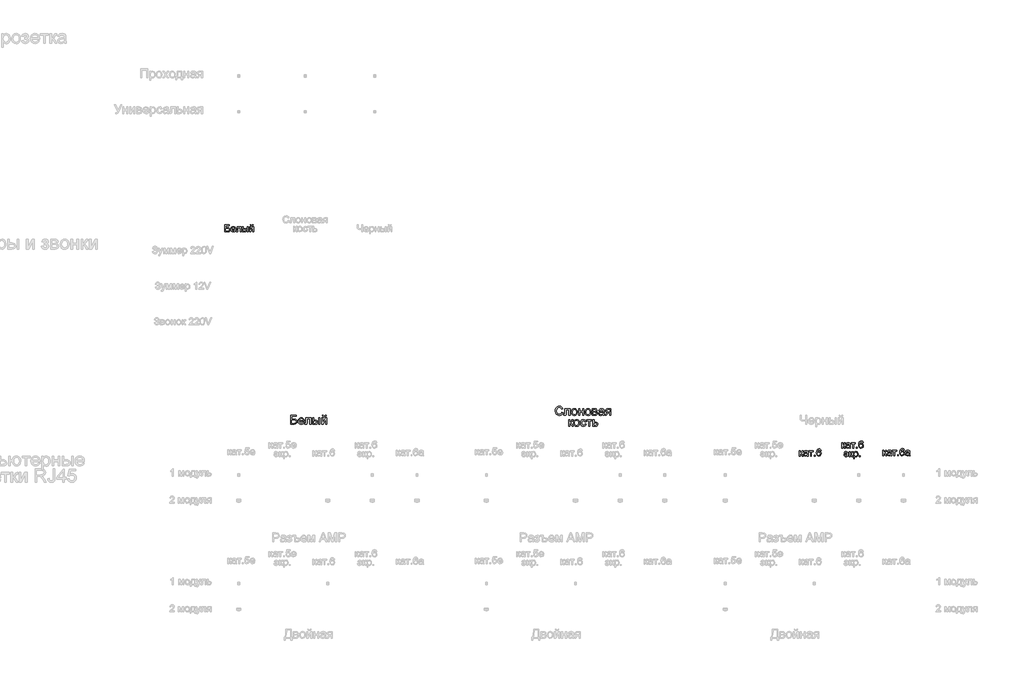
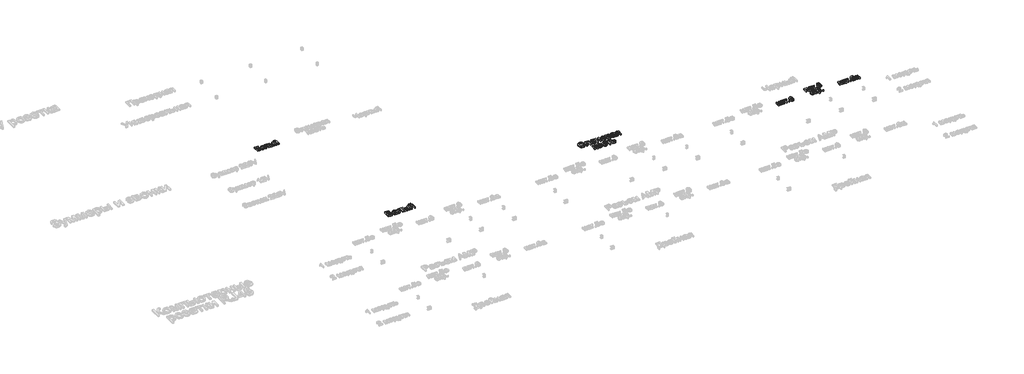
# One storey, part 33 of 47: 6 proxies.
"""IFC4 building model written with IfcOpenShell, lengths in millimetres."""

from ifc_helpers import new_model, si_unit, origin, origin_with_axes, place, context, project, spatial, polyline, outline, extrude, element, save

model = new_model("IFC4")

# Units and contexts
model_context = context("Model", 3, world=origin())
ifc_project = project(units=[si_unit("LENGTHUNIT", "METRE", prefix="MILLI")], contexts=[model_context])

# Site, building, storey
site = spatial("IfcSite", under=ifc_project)
building = spatial("IfcBuilding", under=site)
storey = spatial("IfcBuildingStorey", under=building, Name="Этаж 01", Elevation=0.0)

# Proxies
placement = place(None, origin())
element("IfcBuildingElementProxy", 1, Name="80 мм Arial", ObjectType="80 мм Arial", at=placement, inside=storey, context=model_context, shape_type="SweptSolid", body=[
    extrude(outline(polyline([(-152.4738634, -17510.5375901), (-102.2457083, -17510.5375901), (-102.2457083, -17520.5832211), (-142.4282324, -17520.5832211), (-142.4282324, -17544.4415948), (-123.6122946, -17544.4415948), (-107.0330794, -17546.4821136), (-97.1640317, -17554.1929202), (-93.4557812, -17567.3778109), (-96.0947214, -17578.8262986), (-103.9723012, -17587.527934), (-121.8072203, -17590.9026382), (-152.4738634, -17590.9026382), (-152.4738634, -17510.5375901)]), holes=[polyline([(-142.4282324, -17580.8570072), (-120.9046831, -17580.8570072), (-107.857135, -17577.5411642), (-103.5014122, -17567.593635), (-105.9931996, -17559.7258654), (-112.9290015, -17555.5271056), (-128.0661193, -17554.4872258), (-142.4282324, -17554.4872258), (-142.4282324, -17580.8570072)])]), origin_with_axes(), (0.0, 0.0, 1.0), 20.0),
    extrude(outline(polyline([(-39.5782367, -17573.3227839), (-29.7288094, -17574.5784878), (-38.9405746, -17587.5475544), (-56.0985909, -17592.1583421), (-67.88553, -17590.1693268), (-76.9550474, -17584.2022808), (-82.7381524, -17574.6447066), (-84.6658541, -17561.8841064), (-82.718532, -17548.6943106), (-76.8765659, -17538.8301681), (-67.9296758, -17532.6791811), (-56.6675817, -17530.6288521), (-45.7562017, -17532.674276), (-37.0373984, -17538.8105477), (-31.3205122, -17548.6550699), (-29.4148835, -17561.8252453), (-29.4737446, -17564.5328568), (-74.620223, -17564.5328568), (-68.8420232, -17577.5804049), (-55.9023871, -17582.1127111), (-46.0529598, -17580.0133312), (-39.5782367, -17573.3227839)]), holes=[polyline([(-74.620223, -17554.4872258), (-39.4605145, -17554.4872258), (-43.482691, -17545.3833727), (-56.7068224, -17540.6744831), (-69.0774676, -17544.4317846), (-74.620223, -17554.4872258)])]), origin_with_axes(), (0.0, 0.0, 1.0), 20.0),
    extrude(outline(polyline([(-14.3464369, -17531.884556), (30.8589026, -17531.884556), (30.8589026, -17590.8437771), (20.8132716, -17590.8437771), (20.8132716, -17541.930187), (-4.3008059, -17541.930187), (-4.3008059, -17570.0854224), (-4.9777088, -17583.0741094), (-8.6957695, -17588.5580036), (-17.4856966, -17590.9026382), (-25.6477718, -17590.3925085), (-25.6477718, -17580.8570072), (-21.1547064, -17580.8570072), (-16.61259, -17580.2389655), (-14.7977055, -17578.2769281), (-14.3464369, -17569.5164316), (-14.3464369, -17531.884556)])), origin_with_axes(), (0.0, 0.0, 1.0), 20.0),
    extrude(outline(polyline([(45.9273491, -17531.884556), (55.9729802, -17531.884556), (55.9729802, -17553.2315219), (68.3926763, -17553.2315219), (87.0810817, -17558.2641476), (92.0033428, -17564.2508139), (93.6440965, -17572.1455616), (88.1405818, -17585.3991236), (80.9914084, -17589.5267596), (70.5509174, -17590.9026382), (45.9273491, -17590.9026382), (45.9273491, -17531.884556)]), holes=[polyline([(55.9729802, -17580.8570072), (66.2932964, -17580.8570072), (79.6155297, -17578.7478171), (83.5984654, -17572.1651819), (80.6455993, -17565.9847644), (67.6078614, -17563.2771529), (55.9729802, -17563.2771529), (55.9729802, -17580.8570072)])]), origin_with_axes(), (0.0, 0.0, 1.0), 20.0),
    extrude(outline(polyline([(101.1783197, -17531.884556), (111.2239507, -17531.884556), (111.2239507, -17590.9026382), (101.1783197, -17590.9026382), (101.1783197, -17531.884556)])), origin_with_axes(), (0.0, 0.0, 1.0), 20.0),
    extrude(outline(polyline([(126.2923973, -17531.884556), (136.3380283, -17531.884556), (136.3380283, -17576.8936918), (161.0204576, -17531.884556), (174.0091446, -17531.884556), (174.0091446, -17590.9026382), (163.9635136, -17590.9026382), (163.9635136, -17546.1681876), (139.4380472, -17590.9026382), (126.2923973, -17590.9026382), (126.2923973, -17531.884556)])), origin_with_axes(), (0.0, 0.0, 1.0), 20.0),
    extrude(outline(polyline([(158.9406981, -17510.5375901), (166.4749213, -17510.5375901), (161.5992586, -17521.7113926), (150.7786229, -17525.6060366), (139.0652601, -17521.7408231), (133.8266205, -17510.5375901), (141.3608438, -17510.5375901), (144.1861775, -17516.1980677), (149.8760857, -17518.0718134), (156.1153643, -17516.2569288), (158.9406981, -17510.5375901)])), origin_with_axes(), (0.0, 0.0, 1.0), 20.0),
])
element("IfcBuildingElementProxy", 2, Name="100 мм Arial", ObjectType="100 мм Arial", at=placement, inside=storey, context=model_context, shape_type="SweptSolid", body=[
    extrude(outline(polyline([(586.8727236, -19650.4463281), (649.6579174, -19650.4463281), (649.6579174, -19663.0033668), (599.4297624, -19663.0033668), (599.4297624, -19692.8263339), (622.9496846, -19692.8263339), (643.6737036, -19695.3769824), (656.0100132, -19705.0154907), (660.6453263, -19721.4966041), (657.3466511, -19735.8072137), (647.4996764, -19746.684258), (625.2060275, -19750.9026382), (586.8727236, -19750.9026382), (586.8727236, -19650.4463281)]), holes=[polyline([(599.4297624, -19738.3455994), (626.3341989, -19738.3455994), (642.6436341, -19734.2007956), (646.7271242, -19729.0197909), (648.0882876, -19721.7663842), (644.9735534, -19711.9316722), (636.303801, -19706.6832224), (617.3824037, -19705.3833727), (599.4297624, -19705.3833727), (599.4297624, -19738.3455994)])]), origin_with_axes(), (0.0, 0.0, 1.0), 20.0),
    extrude(outline(polyline([(727.9922569, -19728.9278204), (740.304041, -19730.4974502), (735.8679973, -19739.7742079), (728.7893346, -19746.7087835), (719.2274684, -19751.0313969), (707.3418143, -19752.4722681), (692.6081404, -19749.9859989), (681.2712435, -19742.5271915), (674.0423623, -19730.5802237), (671.6327353, -19714.6294735), (674.0668878, -19698.1422287), (681.3693454, -19685.8120505), (692.5529581, -19678.1233168), (706.6305757, -19675.5604056), (720.2698007, -19678.1171855), (731.1683048, -19685.7875251), (738.3144126, -19698.0931778), (740.6964485, -19714.5558971), (740.6228721, -19717.9404114), (684.189774, -19717.9404114), (686.3633435, -19727.3397964), (691.4125239, -19734.2498466), (698.6996531, -19738.4988836), (707.5870689, -19739.9152293), (719.898853, -19737.2910044), (727.9922569, -19728.9278204)]), holes=[polyline([(684.189774, -19705.3833727), (728.1394097, -19705.3833727), (723.1116891, -19694.0035563), (715.7908374, -19689.5889724), (706.5815248, -19688.1174444), (691.1182183, -19692.8140712), (686.2529789, -19698.30471), (684.189774, -19705.3833727)])]), origin_with_axes(), (0.0, 0.0, 1.0), 20.0),
    extrude(outline(polyline([(759.5320067, -19677.1300355), (816.0386811, -19677.1300355), (816.0386811, -19750.8290618), (803.4816423, -19750.8290618), (803.4816423, -19689.6870742), (772.0890454, -19689.6870742), (772.0890454, -19724.8811184), (771.2429168, -19741.1169771), (766.595341, -19747.971845), (755.607932, -19750.9026382), (745.405338, -19750.2649761), (745.405338, -19738.3455994), (751.0216698, -19738.3455994), (756.6993153, -19737.5730473), (758.9679209, -19735.1205006), (759.5320067, -19724.1698799), (759.5320067, -19677.1300355)])), origin_with_axes(), (0.0, 0.0, 1.0), 20.0),
    extrude(outline(polyline([(903.9379525, -19677.1300355), (916.4949913, -19677.1300355), (916.4949913, -19750.9026382), (903.9379525, -19750.9026382), (903.9379525, -19677.1300355)])), origin_with_axes(), (0.0, 0.0, 1.0), 20.0),
    extrude(outline(polyline([(834.8742393, -19677.1300355), (847.431278, -19677.1300355), (847.431278, -19703.8137428), (862.9558982, -19703.8137428), (876.374394, -19705.3864384), (886.3164049, -19710.104525), (892.4692313, -19717.5878579), (894.5201734, -19727.4562924), (892.8003251, -19736.4418101), (887.6407801, -19744.0232449), (878.7043133, -19749.1827899), (865.6536995, -19750.9026382), (834.8742393, -19750.9026382), (834.8742393, -19677.1300355)]), holes=[polyline([(847.431278, -19738.3455994), (860.3316733, -19738.3455994), (876.984465, -19735.7091118), (881.9631346, -19727.4808179), (878.272052, -19719.755296), (861.9748796, -19716.3707816), (847.431278, -19716.3707816), (847.431278, -19738.3455994)])]), origin_with_axes(), (0.0, 0.0, 1.0), 20.0),
    extrude(outline(polyline([(976.1409254, -19650.4463281), (985.5587045, -19650.4463281), (979.4641261, -19664.4135812), (965.9383314, -19669.2818862), (951.296628, -19664.4503694), (944.7483285, -19650.4463281), (954.1661076, -19650.4463281), (957.6977747, -19657.5219251), (964.81016, -19659.8641071), (972.6092583, -19657.5955015), (976.1409254, -19650.4463281)])), origin_with_axes(), (0.0, 0.0, 1.0), 20.0),
    extrude(outline(polyline([(935.3305494, -19677.1300355), (947.8875882, -19677.1300355), (947.8875882, -19733.3914552), (978.7406248, -19677.1300355), (994.9764836, -19677.1300355), (994.9764836, -19750.9026382), (982.4194448, -19750.9026382), (982.4194448, -19694.984575), (951.7626119, -19750.9026382), (935.3305494, -19750.9026382), (935.3305494, -19677.1300355)])), origin_with_axes(), (0.0, 0.0, 1.0), 20.0),
])
element("IfcBuildingElementProxy", 3, Name="100 мм Arial", ObjectType="100 мм Arial", at=placement, inside=storey, context=model_context, shape_type="SweptSolid", body=[
    extrude(outline(polyline([(3632.340867, -19615.1935592), (3644.8979057, -19618.4309208), (3639.1037643, -19633.0634271), (3630.0109477, -19643.7534648), (3618.0670456, -19650.2925672), (3603.7196477, -19652.4722681), (3589.1545864, -19650.8229305), (3577.5877634, -19645.8749176), (3568.7218073, -19637.7999078), (3562.2593469, -19626.7695793), (3556.9986344, -19599.9141937), (3558.4854908, -19585.2663589), (3562.9460599, -19572.6173496), (3570.14735, -19562.3687704), (3579.856369, -19554.9222257), (3591.3710754, -19550.3880801), (3603.9894279, -19548.8766982), (3617.7574115, -19550.8326042), (3629.1402936, -19556.700322), (3637.7824548, -19566.1181011), (3643.3282759, -19578.7241908), (3630.7712371, -19581.7162977), (3620.4705413, -19566.2775166), (3603.4989185, -19561.433737), (3583.85402, -19566.8048141), (3572.7562465, -19581.2257883), (3569.5556731, -19599.8896682), (3573.3448577, -19621.5211295), (3585.141607, -19635.3412298), (3602.468849, -19639.9152293), (3612.9504201, -19638.3578622), (3621.6845518, -19633.6857608), (3628.2788366, -19625.9479762), (3632.340867, -19615.1935592)])), origin_with_axes(), (0.0, 0.0, 1.0), 20.0),
    extrude(outline(polyline([(3666.8727236, -19577.1300355), (3723.379398, -19577.1300355), (3723.379398, -19650.8290618), (3710.8223593, -19650.8290618), (3710.8223593, -19589.6870742), (3679.4297624, -19589.6870742), (3679.4297624, -19624.8811184), (3678.5836338, -19641.1169771), (3673.9360579, -19647.971845), (3662.948649, -19650.9026382), (3652.746055, -19650.2649761), (3652.746055, -19638.3455994), (3658.3623868, -19638.3455994), (3664.0400322, -19637.5730473), (3666.3086379, -19635.1205006), (3666.8727236, -19624.1698799), (3666.8727236, -19577.1300355)])), origin_with_axes(), (0.0, 0.0, 1.0), 20.0),
    extrude(outline(polyline([(3739.0756965, -19614.0163368), (3741.7918919, -19596.2292424), (3749.9404781, -19583.7273859), (3760.008182, -19577.6021507), (3772.0624487, -19575.5604056), (3785.2540839, -19578.0466748), (3795.7908374, -19585.5054822), (3802.6978219, -19597.3482168), (3805.00015, -19612.9862672), (3800.9289226, -19635.3289671), (3789.0708596, -19647.971845), (3772.0624487, -19652.4722681), (3758.711398, -19649.995196), (3748.1869073, -19642.5639797), (3741.3534992, -19630.4729248), (3739.0756965, -19614.0163368)]), holes=[polyline([(3751.6327353, -19613.9918114), (3753.0858692, -19625.3562993), (3757.4452708, -19633.4527689), (3764.005833, -19638.2996142), (3772.0624487, -19639.9152293), (3780.0822762, -19638.2904171), (3786.6305757, -19633.4159807), (3790.9899774, -19625.2122122), (3792.4431113, -19613.5994039), (3790.9807803, -19602.5660097), (3786.5937875, -19594.5799048), (3780.036291, -19589.7330595), (3772.0624487, -19588.1174444), (3764.005833, -19589.7269281), (3757.4452708, -19594.5553793), (3753.0858692, -19602.6334548), (3751.6327353, -19613.9918114)])]), origin_with_axes(), (0.0, 0.0, 1.0), 20.0),
    extrude(outline(polyline([(3819.1268187, -19577.1300355), (3831.6838574, -19577.1300355), (3831.6838574, -19605.3833727), (3864.6460842, -19605.3833727), (3864.6460842, -19577.1300355), (3877.203123, -19577.1300355), (3877.203123, -19650.9026382), (3864.6460842, -19650.9026382), (3864.6460842, -19617.9404114), (3831.6838574, -19617.9404114), (3831.6838574, -19650.9026382), (3819.1268187, -19650.9026382), (3819.1268187, -19577.1300355)])), origin_with_axes(), (0.0, 0.0, 1.0), 20.0),
    extrude(outline(polyline([(3892.8994214, -19614.0163368), (3895.6156168, -19596.2292424), (3903.764203, -19583.7273859), (3913.8319069, -19577.6021507), (3925.8861737, -19575.5604056), (3939.0778089, -19578.0466748), (3949.6145623, -19585.5054822), (3956.5215468, -19597.3482168), (3958.823875, -19612.9862672), (3954.7526475, -19635.3289671), (3942.8945846, -19647.971845), (3925.8861737, -19652.4722681), (3912.5351229, -19649.995196), (3902.0106322, -19642.5639797), (3895.1772241, -19630.4729248), (3892.8994214, -19614.0163368)]), holes=[polyline([(3905.4564602, -19613.9918114), (3906.9095941, -19625.3562993), (3911.2689957, -19633.4527689), (3917.829558, -19638.2996142), (3925.8861737, -19639.9152293), (3933.9060011, -19638.2904171), (3940.4543007, -19633.4159807), (3944.8137023, -19625.2122122), (3946.2668362, -19613.5994039), (3944.8045053, -19602.5660097), (3940.4175125, -19594.5799048), (3933.8600159, -19589.7330595), (3925.8861737, -19588.1174444), (3917.829558, -19589.7269281), (3911.2689957, -19594.5553793), (3906.9095941, -19602.6334548), (3905.4564602, -19613.9918114)])]), origin_with_axes(), (0.0, 0.0, 1.0), 20.0),
    extrude(outline(polyline([(3972.9505436, -19577.1300355), (4000.6152696, -19577.1300355), (4015.7842705, -19578.8100299), (4024.3191328, -19584.9659219), (4027.8875882, -19595.6958135), (4025.7293471, -19604.4146168), (4019.2300986, -19610.6318225), (4027.666859, -19617.4376394), (4031.0268479, -19629.2711769), (4028.8992637, -19638.8422401), (4023.8408862, -19645.580612), (4015.8333215, -19649.5721317), (4004.8581753, -19650.9026382), (3972.9505436, -19650.9026382), (3972.9505436, -19577.1300355)]), holes=[polyline([(3985.5075823, -19605.3833727), (3997.9174683, -19605.3833727), (4008.1568505, -19604.7457106), (4013.1355202, -19602.1950621), (4015.3305494, -19597.5842744), (4011.4800512, -19591.4283823), (3998.3098758, -19589.6870742), (3985.5075823, -19589.6870742), (3985.5075823, -19605.3833727)]), polyline([(3985.5075823, -19638.3455994), (4000.9095752, -19638.3455994), (4014.57026, -19636.0769938), (4018.4698091, -19628.2411073), (4016.3238308, -19622.1955799), (4010.7320245, -19618.6761754), (3999.6833019, -19617.9404114), (3985.5075823, -19617.9404114), (3985.5075823, -19638.3455994)])]), origin_with_axes(), (0.0, 0.0, 1.0), 20.0),
    extrude(outline(polyline([(4093.8120417, -19641.4848591), (4081.6351477, -19649.995196), (4068.1829294, -19652.4722681), (4057.6890955, -19650.982346), (4049.9482452, -19646.5125797), (4045.1749763, -19639.7251569), (4043.5838866, -19631.2822651), (4045.9873823, -19621.3494513), (4052.3026899, -19614.1389642), (4061.0950696, -19610.0186858), (4071.9598512, -19608.1302249), (4093.7384653, -19603.8137428), (4093.8120417, -19601.0178397), (4090.353951, -19591.7472134), (4076.472537, -19588.1174444), (4063.7683454, -19590.5332028), (4057.7105553, -19599.1048533), (4045.1535165, -19597.5352234), (4050.5859073, -19585.2724903), (4061.5242653, -19578.0865286), (4078.0912178, -19575.5604056), (4093.3092697, -19577.792223), (4101.9054456, -19583.3962921), (4105.7559438, -19591.9188917), (4106.3690805, -19602.9063006), (4106.3690805, -19618.5290226), (4107.0067426, -19640.344425), (4109.5083402, -19650.9026382), (4096.9513014, -19650.9026382), (4093.8120417, -19641.4848591)]), holes=[polyline([(4093.8120417, -19616.3707816), (4073.5540065, -19620.2212798), (4062.7505386, -19622.2568935), (4057.8577081, -19625.5678315), (4056.1409254, -19630.3993484), (4059.881059, -19637.1929025), (4070.8562052, -19639.9152293), (4083.5603968, -19636.9108597), (4091.7519025, -19629.6390589), (4093.7384653, -19619.9269742), (4093.8120417, -19616.3707816)])]), origin_with_axes(), (0.0, 0.0, 1.0), 20.0),
    extrude(outline(polyline([(4180.1416833, -19577.1300355), (4180.1416833, -19650.9026382), (4167.5846445, -19650.9026382), (4167.5846445, -19622.649301), (4160.7420394, -19622.649301), (4151.4223622, -19624.2434563), (4142.6667707, -19634.9610851), (4132.6603804, -19650.9026382), (4118.1413043, -19650.9026382), (4130.747394, -19630.7427049), (4141.4404974, -19620.2948562), (4132.8565841, -19617.6645), (4126.8233194, -19612.6674362), (4122.0653789, -19598.4426657), (4123.6901911, -19589.8464898), (4128.5646275, -19583.0406728), (4136.51701, -19578.6076948), (4147.3756602, -19577.1300355), (4180.1416833, -19577.1300355)]), holes=[polyline([(4167.5846445, -19589.6870742), (4151.0299547, -19589.6870742), (4137.6267873, -19592.593342), (4134.6224177, -19599.3991589), (4139.0492644, -19607.5048255), (4154.7333001, -19610.0922622), (4167.5846445, -19610.0922622), (4167.5846445, -19589.6870742)])]), origin_with_axes(), (0.0, 0.0, 1.0), 20.0),
    extrude(outline(polyline([(3706.8982847, -19699.1048533), (3719.4553234, -19699.1048533), (3719.4553234, -19730.4974502), (3727.8675584, -19728.2411073), (3734.7592144, -19715.0954574), (3740.4859108, -19703.7524292), (3745.5381569, -19700.0613465), (3754.722944, -19699.1048533), (3757.1264397, -19699.1048533), (3757.1264397, -19711.7354685), (3753.7419254, -19711.6618921), (3747.6105588, -19712.9862672), (3743.2940767, -19721.2513494), (3738.2295679, -19730.1908819), (3731.1294454, -19734.5686776), (3739.051171, -19739.4553768), (3746.8257439, -19749.7499413), (3760.2656994, -19772.8774561), (3745.991878, -19772.8774561), (3732.8217026, -19750.2404506), (3726.1998267, -19740.663256), (3719.4553234, -19738.3455994), (3719.4553234, -19772.8774561), (3706.8982847, -19772.8774561), (3706.8982847, -19699.1048533)])), origin_with_axes(), (0.0, 0.0, 1.0), 20.0),
    extrude(outline(polyline([(3764.974589, -19735.9911547), (3767.6907844, -19718.2040602), (3775.8393706, -19705.7022037), (3785.9070745, -19699.5769685), (3797.9613412, -19697.5352234), (3811.1529764, -19700.0214926), (3821.6897299, -19707.4803001), (3828.5967143, -19719.3230346), (3830.8990425, -19734.9610851), (3826.8278151, -19757.3037849), (3814.9697521, -19769.9466628), (3797.9613412, -19774.4470859), (3784.6102905, -19771.9700138), (3774.0857997, -19764.5387975), (3767.2523917, -19752.4477426), (3764.974589, -19735.9911547)]), holes=[polyline([(3777.5316277, -19735.9666292), (3778.9847616, -19747.3311172), (3783.3441633, -19755.4275868), (3789.9047255, -19760.274432), (3797.9613412, -19761.8900471), (3805.9811687, -19760.265235), (3812.5294682, -19755.3907986), (3816.8888698, -19747.1870301), (3818.3420037, -19735.5742218), (3816.8796728, -19724.5408276), (3812.49268, -19716.5547226), (3805.9351834, -19711.7078773), (3797.9613412, -19710.0922622), (3789.9047255, -19711.7017459), (3783.3441633, -19716.5301971), (3778.9847616, -19724.6082726), (3777.5316277, -19735.9666292)])]), origin_with_axes(), (0.0, 0.0, 1.0), 20.0),
    extrude(outline(polyline([(3892.1146065, -19746.1937487), (3904.6716453, -19747.7633785), (3901.1706349, -19758.9316628), (3894.5916786, -19767.3714889), (3885.5540442, -19772.6781866), (3874.6769999, -19774.4470859), (3861.3198178, -19771.9792109), (3850.8750348, -19764.5755857), (3844.1335973, -19752.5611729), (3841.8864514, -19736.2609348), (3845.7246869, -19715.4020257), (3857.4233344, -19701.9988583), (3874.5053217, -19697.5352234), (3885.1156515, -19699.0680651), (3893.5983972, -19703.66659), (3899.6837785, -19711.0855436), (3903.1020154, -19721.0796711), (3890.5449767, -19722.649301), (3884.7201784, -19713.2437846), (3874.6034235, -19710.0922622), (3866.4885598, -19711.643498), (3860.0475593, -19716.2972052), (3855.8445075, -19724.30477), (3854.4434902, -19735.9175783), (3855.8138506, -19747.6867364), (3859.9249319, -19755.7218924), (3866.2494366, -19760.3480084), (3874.260067, -19761.8900471), (3886.0936045, -19758.0395489), (3892.1146065, -19746.1937487)])), origin_with_axes(), (0.0, 0.0, 1.0), 20.0),
    extrude(outline(polyline([(3909.3805348, -19699.1048533), (3969.026469, -19699.1048533), (3969.026469, -19711.6618921), (3945.4820213, -19711.6618921), (3945.4820213, -19772.8774561), (3932.9249825, -19772.8774561), (3932.9249825, -19711.6618921), (3909.3805348, -19711.6618921), (3909.3805348, -19699.1048533)])), origin_with_axes(), (0.0, 0.0, 1.0), 20.0),
    extrude(outline(polyline([(3980.0138779, -19699.1048533), (3992.5709166, -19699.1048533), (3992.5709166, -19725.7885607), (4007.0409418, -19725.7885607), (4019.5857178, -19727.3612562), (4028.8686068, -19732.0793428), (4034.607566, -19739.5626757), (4036.5205523, -19749.4311102), (4034.8926745, -19758.416628), (4030.009041, -19765.9980628), (4021.5446894, -19771.1576077), (4009.1746574, -19772.8774561), (3980.0138779, -19772.8774561), (3980.0138779, -19699.1048533)]), holes=[polyline([(3992.5709166, -19760.3204173), (4004.2940896, -19760.3204173), (4019.438565, -19757.6839297), (4023.9635136, -19749.4556357), (4020.6157874, -19741.7301138), (4005.790143, -19738.3455994), (3992.5709166, -19738.3455994), (3992.5709166, -19760.3204173)])]), origin_with_axes(), (0.0, 0.0, 1.0), 20.0),
])
element("IfcBuildingElementProxy", 4, Name="80 мм Arial", ObjectType="80 мм Arial", at=placement, inside=storey, context=model_context, shape_type="SweptSolid", body=[
    extrude(outline(polyline([(6298.8748928, -20047.654338), (6308.9205238, -20047.654338), (6308.9205238, -20072.7684155), (6315.6503118, -20070.9633412), (6321.1636366, -20060.4468212), (6325.7449937, -20051.3723987), (6329.7867906, -20048.4195325), (6337.1346203, -20047.654338), (6339.0574169, -20047.654338), (6339.0574169, -20057.7588301), (6336.3498054, -20057.699969), (6331.4447121, -20058.7594692), (6327.9915264, -20065.3715349), (6323.9399194, -20072.5231609), (6318.2598214, -20076.0253975), (6324.5972019, -20079.9347568), (6330.8168602, -20088.1704084), (6341.5688246, -20106.6724202), (6330.1497675, -20106.6724202), (6319.6136271, -20088.5628159), (6314.3161264, -20080.9010602), (6308.9205238, -20079.0469349), (6308.9205238, -20106.6724202), (6298.8748928, -20106.6724202), (6298.8748928, -20047.654338)])), origin_with_axes(), (0.0, 0.0, 1.0), 20.0),
    extrude(outline(polyline([(6385.5184603, -20099.1381969), (6375.7769451, -20105.9464664), (6365.0151704, -20107.9281241), (6350.4274231, -20103.1603734), (6345.3359362, -20090.9761218), (6347.2587328, -20083.0298707), (6352.3109789, -20077.261481), (6359.3448826, -20073.9652583), (6368.0367079, -20072.4544896), (6385.4595992, -20069.0013039), (6385.5184603, -20066.7645814), (6382.7519877, -20059.3480804), (6371.6468565, -20056.4442651), (6361.4835033, -20058.3768719), (6356.6372711, -20065.2341923), (6346.5916401, -20063.9784884), (6350.9375528, -20054.1683019), (6359.6882391, -20048.4195325), (6372.9418012, -20046.3986341), (6385.1162427, -20048.1840881), (6391.9931834, -20052.6673433), (6395.073582, -20059.485423), (6395.5640913, -20068.2753501), (6395.5640913, -20080.7735278), (6396.074221, -20098.2258496), (6398.0754991, -20106.6724202), (6388.0298681, -20106.6724202), (6385.5184603, -20099.1381969)]), holes=[polyline([(6385.5184603, -20079.0469349), (6369.3120321, -20082.1273335), (6360.6692578, -20083.7558245), (6356.7549934, -20086.4045748), (6355.3815673, -20090.2697883), (6358.3736742, -20095.7046317), (6367.1537911, -20097.8824931), (6377.3171444, -20095.4789974), (6383.870349, -20089.6615568), (6385.4595992, -20081.891889), (6385.5184603, -20079.0469349)])]), origin_with_axes(), (0.0, 0.0, 1.0), 20.0),
    extrude(outline(polyline([(6404.3540185, -20047.654338), (6452.0707658, -20047.654338), (6452.0707658, -20057.699969), (6433.2352076, -20057.699969), (6433.2352076, -20106.6724202), (6423.1895766, -20106.6724202), (6423.1895766, -20057.699969), (6404.3540185, -20057.699969), (6404.3540185, -20047.654338)])), origin_with_axes(), (0.0, 0.0, 1.0), 20.0),
    extrude(outline(polyline([(6463.3721007, -20106.6724202), (6463.3721007, -20096.6267892), (6473.4177317, -20096.6267892), (6473.4177317, -20106.6724202), (6463.3721007, -20106.6724202)])), origin_with_axes(), (0.0, 0.0, 1.0), 20.0),
    extrude(outline(polyline([(6541.225741, -20047.654338), (6531.18011, -20048.9100419), (6527.3737576, -20040.5321426), (6517.3085063, -20036.3530031), (6508.2438939, -20038.7859294), (6501.3865735, -20047.919213), (6498.5318092, -20065.8228035), (6507.3904077, -20057.8078811), (6518.3680064, -20055.1885613), (6527.6484429, -20056.9789203), (6535.437731, -20062.3499974), (6540.7205164, -20070.5562185), (6542.4814449, -20080.8520092), (6539.1656019, -20094.7138028), (6530.0421284, -20104.5239894), (6516.876858, -20107.9281241), (6505.4798738, -20105.6717812), (6496.4029987, -20098.9027525), (6490.4653833, -20086.9539453), (6488.4861782, -20069.1582669), (6490.68366, -20049.1503914), (6497.2761053, -20035.4700863), (6506.2769515, -20028.5980506), (6517.9363582, -20026.3073721), (6526.7508108, -20027.724944), (6533.80924, -20031.9776599), (6541.225741, -20047.654338)]), holes=[polyline([(6498.5318092, -20080.6950463), (6500.8568234, -20089.3966817), (6507.0372409, -20095.7144418), (6516.0920431, -20097.8824931), (6527.9329383, -20093.3894276), (6532.4358139, -20081.1855556), (6527.9917994, -20069.5016234), (6515.6800153, -20065.2341923), (6503.5251942, -20069.5016234), (6498.5318092, -20080.6950463)])]), origin_with_axes(), (0.0, 0.0, 1.0), 20.0),
])
element("IfcBuildingElementProxy", 5, Name="80 мм Arial", ObjectType="80 мм Arial", at=placement, inside=storey, context=model_context, shape_type="SweptSolid", body=[
    extrude(outline(polyline([(6771.9396889, -19958.8197599), (6781.9853199, -19958.8197599), (6781.9853199, -19983.9338374), (6788.7151079, -19982.1287631), (6794.2284327, -19971.6122431), (6798.8097899, -19962.5378206), (6802.8515867, -19959.5849544), (6810.1994164, -19958.8197599), (6812.122213, -19958.8197599), (6812.122213, -19968.924252), (6809.4146015, -19968.8653909), (6804.5095082, -19969.924891), (6801.0563226, -19976.5369568), (6797.0047155, -19983.6885828), (6791.3246175, -19987.1908193), (6797.661998, -19991.1001787), (6803.8816563, -19999.3358303), (6814.6336207, -20017.8378421), (6803.2145636, -20017.8378421), (6792.6784233, -19999.7282377), (6787.3809225, -19992.0664821), (6781.9853199, -19990.2123568), (6781.9853199, -20017.8378421), (6771.9396889, -20017.8378421), (6771.9396889, -19958.8197599)])), origin_with_axes(), (0.0, 0.0, 1.0), 20.0),
    extrude(outline(polyline([(6858.5832564, -20010.3036188), (6848.8417412, -20017.1118883), (6838.0799666, -20019.093546), (6823.4922192, -20014.3257953), (6818.4007324, -20002.1415436), (6820.3235289, -19994.1952925), (6825.375775, -19988.4269029), (6832.4096787, -19985.1306802), (6841.101504, -19983.6199114), (6858.5243953, -19980.1667258), (6858.5832564, -19977.9300033), (6855.8167838, -19970.5135022), (6844.7116527, -19967.609687), (6834.5482994, -19969.5422938), (6829.7020673, -19976.3996142), (6819.6564362, -19975.1439103), (6824.0023489, -19965.3337237), (6832.7530353, -19959.5849544), (6846.0065973, -19957.564056), (6858.1810388, -19959.34951), (6865.0579795, -19963.8327652), (6868.1383781, -19970.6508448), (6868.6288874, -19979.440772), (6868.6288874, -19991.9389496), (6869.1390171, -20009.3912715), (6871.1402952, -20017.8378421), (6861.0946642, -20017.8378421), (6858.5832564, -20010.3036188)]), holes=[polyline([(6858.5832564, -19990.2123568), (6842.3768283, -19993.2927554), (6833.7340539, -19994.9212463), (6829.8197895, -19997.5699967), (6828.4463634, -20001.4352102), (6831.4384703, -20006.8700535), (6840.2185872, -20009.047915), (6850.3819405, -20006.6444193), (6856.9351451, -20000.8269786), (6858.5243953, -19993.0573109), (6858.5832564, -19990.2123568)])]), origin_with_axes(), (0.0, 0.0, 1.0), 20.0),
    extrude(outline(polyline([(6877.4188146, -19958.8197599), (6925.1355619, -19958.8197599), (6925.1355619, -19968.8653909), (6906.3000037, -19968.8653909), (6906.3000037, -20017.8378421), (6896.2543727, -20017.8378421), (6896.2543727, -19968.8653909), (6877.4188146, -19968.8653909), (6877.4188146, -19958.8197599)])), origin_with_axes(), (0.0, 0.0, 1.0), 20.0),
    extrude(outline(polyline([(6936.4368968, -20017.8378421), (6936.4368968, -20007.7922111), (6946.4825278, -20007.7922111), (6946.4825278, -20017.8378421), (6936.4368968, -20017.8378421)])), origin_with_axes(), (0.0, 0.0, 1.0), 20.0),
    extrude(outline(polyline([(7014.2905372, -19958.8197599), (7004.2449061, -19960.0754638), (7000.4385538, -19951.6975645), (6990.3733024, -19947.518425), (6981.30869, -19949.9513512), (6974.4513696, -19959.0846349), (6971.5966053, -19976.9882253), (6980.4552038, -19968.9733029), (6991.4328025, -19966.3539831), (7000.713239, -19968.1443422), (7008.5025271, -19973.5154193), (7013.7853126, -19981.7216404), (7015.546241, -19992.0174311), (7012.230398, -20005.8792247), (7003.1069245, -20015.6894112), (6989.9416542, -20019.093546), (6978.54467, -20016.8372031), (6969.4677949, -20010.0681744), (6963.5301795, -19998.1193672), (6961.5509743, -19980.3236888), (6963.7484561, -19960.3158133), (6970.3409015, -19946.6355082), (6979.3417476, -19939.7634725), (6991.0011543, -19937.472794), (6999.8156069, -19938.8903659), (7006.8740361, -19943.1430818), (7014.2905372, -19958.8197599)]), holes=[polyline([(6971.5966053, -19991.8604681), (6973.9216196, -20000.5621036), (6980.1020371, -20006.8798637), (6989.1568392, -20009.047915), (7000.9977344, -20004.5548495), (7005.50061, -19992.3509775), (7001.0565955, -19980.6670453), (6988.7448114, -19976.3996142), (6976.5899903, -19980.6670453), (6971.5966053, -19991.8604681)])]), origin_with_axes(), (0.0, 0.0, 1.0), 20.0),
    extrude(outline(polyline([(6816.5171766, -20079.0022839), (6835.3527347, -20079.0022839), (6830.8106183, -20069.0253242), (6821.2653068, -20065.1895413), (6813.122852, -20067.700949), (6808.9829533, -20075.2351723), (6798.9373223, -20073.9794684), (6805.8338834, -20060.4119804), (6820.6570753, -20055.1439103), (6830.9111727, -20057.1942393), (6838.7568694, -20063.3452262), (6843.7379916, -20073.0867415), (6845.3983657, -20085.9086553), (6844.0273922, -20098.6717079), (6839.2866195, -20108.7075288), (6831.5390247, -20115.0350991), (6821.1475846, -20116.6734002), (6812.2399352, -20115.2043248), (6805.2158417, -20110.7970985), (6797.6816184, -20095.3264343), (6807.7272494, -20094.0707305), (6812.0535417, -20103.4885095), (6820.9906216, -20106.6277692), (6830.9381508, -20102.2328057), (6835.3527347, -20089.047915), (6816.5171766, -20089.047915), (6816.5171766, -20079.0022839)])), origin_with_axes(), (0.0, 0.0, 1.0), 20.0),
    extrude(outline(polyline([(6856.6997006, -20056.3996142), (6866.7453316, -20056.3996142), (6866.7453316, -20081.5136917), (6873.4751196, -20079.7086174), (6878.9884444, -20069.1920974), (6883.5698015, -20060.1176749), (6887.6115984, -20057.1648087), (6894.9594281, -20056.3996142), (6896.8822247, -20056.3996142), (6896.8822247, -20066.5041063), (6894.1746132, -20066.4452452), (6889.2695199, -20067.5047453), (6885.8163343, -20074.116811), (6881.7647272, -20081.268437), (6876.0846292, -20084.7706736), (6882.4220097, -20088.680033), (6888.641668, -20096.9156846), (6899.3936324, -20115.4176964), (6887.9745753, -20115.4176964), (6877.438435, -20097.308092), (6872.1409342, -20089.6463363), (6866.7453316, -20087.7922111), (6866.7453316, -20115.4176964), (6856.6997006, -20115.4176964), (6856.6997006, -20056.3996142)])), origin_with_axes(), (0.0, 0.0, 1.0), 20.0),
    extrude(outline(polyline([(6905.6721518, -20138.0203662), (6905.6721518, -20056.3996142), (6915.7177828, -20056.3996142), (6915.7177828, -20066.2490414), (6922.6633949, -20057.9201931), (6932.0419332, -20055.1439103), (6944.7755553, -20059.0287441), (6953.0945935, -20069.9769123), (6955.9003069, -20085.4573867), (6952.7316166, -20101.7324861), (6943.5296617, -20112.8179969), (6930.8254701, -20116.6734002), (6922.0845939, -20114.0933212), (6915.7177828, -20107.5695471), (6915.7177828, -20138.0203662), (6905.6721518, -20138.0203662)]), holes=[polyline([(6915.7177828, -20086.3795442), (6920.0636955, -20101.6834352), (6930.609646, -20106.6277692), (6941.3714206, -20101.5068519), (6945.8546759, -20085.63397), (6941.4793327, -20070.2908383), (6931.0216738, -20065.1895413), (6920.3580011, -20070.6145744), (6915.7177828, -20086.3795442)])]), origin_with_axes(), (0.0, 0.0, 1.0), 20.0),
    extrude(outline(polyline([(6969.7130495, -20115.4176964), (6969.7130495, -20105.3720654), (6979.7586805, -20105.3720654), (6979.7586805, -20115.4176964), (6969.7130495, -20115.4176964)])), origin_with_axes(), (0.0, 0.0, 1.0), 20.0),
])
element("IfcBuildingElementProxy", 6, Name="80 мм Arial", ObjectType="80 мм Arial", at=placement, inside=storey, context=model_context, shape_type="SweptSolid", body=[
    extrude(outline(polyline([(7235.3437127, -20043.42412), (7245.3893437, -20043.42412), (7245.3893437, -20068.5381975), (7252.1191317, -20066.7331232), (7257.6324565, -20056.2166032), (7262.2138137, -20047.1421807), (7266.2556105, -20044.1893145), (7273.6034402, -20043.42412), (7275.5262368, -20043.42412), (7275.5262368, -20053.5286121), (7272.8186253, -20053.469751), (7267.913532, -20054.5292512), (7264.4603464, -20061.1413169), (7260.4087393, -20068.2929429), (7254.7286413, -20071.7951795), (7261.0660218, -20075.7045388), (7267.2856801, -20083.9401904), (7278.0376445, -20102.4422022), (7266.6185874, -20102.4422022), (7256.0824471, -20084.3325979), (7250.7849463, -20076.6708422), (7245.3893437, -20074.8167169), (7245.3893437, -20102.4422022), (7235.3437127, -20102.4422022), (7235.3437127, -20043.42412)])), origin_with_axes(), (0.0, 0.0, 1.0), 20.0),
    extrude(outline(polyline([(7321.9872802, -20094.9079789), (7312.245765, -20101.7162484), (7301.4839904, -20103.6979061), (7286.896243, -20098.9301554), (7281.8047562, -20086.7459037), (7283.7275527, -20078.7996526), (7288.7797988, -20073.031263), (7295.8137026, -20069.7350403), (7304.5055278, -20068.2242716), (7321.9284191, -20064.7710859), (7321.9872802, -20062.5343634), (7319.2208076, -20055.1178623), (7308.1156765, -20052.2140471), (7297.9523232, -20054.1466539), (7293.1060911, -20061.0039743), (7283.0604601, -20059.7482704), (7287.4063727, -20049.9380839), (7296.1570591, -20044.1893145), (7309.4106211, -20042.1684161), (7321.5850626, -20043.9538701), (7328.4620034, -20048.4371253), (7331.5424019, -20055.255205), (7332.0329113, -20064.0451321), (7332.0329113, -20076.5433097), (7332.543041, -20093.9956316), (7334.544319, -20102.4422022), (7324.498688, -20102.4422022), (7321.9872802, -20094.9079789)]), holes=[polyline([(7321.9872802, -20074.8167169), (7305.7808521, -20077.8971155), (7297.1380777, -20079.5256065), (7293.2238133, -20082.1743568), (7291.8503872, -20086.0395703), (7294.8424941, -20091.4744137), (7303.622611, -20093.6522751), (7313.7859643, -20091.2487794), (7320.3391689, -20085.4313387), (7321.9284191, -20077.661671), (7321.9872802, -20074.8167169)])]), origin_with_axes(), (0.0, 0.0, 1.0), 20.0),
    extrude(outline(polyline([(7340.8228384, -20043.42412), (7388.5395857, -20043.42412), (7388.5395857, -20053.469751), (7369.7040276, -20053.469751), (7369.7040276, -20102.4422022), (7359.6583965, -20102.4422022), (7359.6583965, -20053.469751), (7340.8228384, -20053.469751), (7340.8228384, -20043.42412)])), origin_with_axes(), (0.0, 0.0, 1.0), 20.0),
    extrude(outline(polyline([(7399.8409206, -20102.4422022), (7399.8409206, -20092.3965712), (7409.8865516, -20092.3965712), (7409.8865516, -20102.4422022), (7399.8409206, -20102.4422022)])), origin_with_axes(), (0.0, 0.0, 1.0), 20.0),
    extrude(outline(polyline([(7477.694561, -20043.42412), (7467.64893, -20044.6798239), (7463.8425776, -20036.3019246), (7453.7773262, -20032.1227851), (7444.7127138, -20034.5557114), (7437.8553934, -20043.688995), (7435.0006292, -20061.5925855), (7443.8592276, -20053.5776631), (7454.8368263, -20050.9583433), (7464.1172628, -20052.7487023), (7471.9065509, -20058.1197794), (7477.1893364, -20066.3260005), (7478.9502648, -20076.6217912), (7475.6344218, -20090.4835848), (7466.5109483, -20100.2937714), (7453.345678, -20103.6979061), (7441.9486938, -20101.4415632), (7432.8718187, -20094.6725345), (7426.9342033, -20082.7237273), (7424.9549981, -20064.9280489), (7427.1524799, -20044.9201734), (7433.7449253, -20031.2398683), (7442.7457714, -20024.3678326), (7454.4051781, -20022.0771541), (7463.2196307, -20023.494726), (7470.2780599, -20027.7474419), (7477.694561, -20043.42412)]), holes=[polyline([(7435.0006292, -20076.4648283), (7437.3256434, -20085.1664637), (7443.5060609, -20091.4842238), (7452.5608631, -20093.6522751), (7464.4017582, -20089.1592096), (7468.9046338, -20076.9553376), (7464.4606193, -20065.2714054), (7452.1488352, -20061.0039743), (7439.9940141, -20065.2714054), (7435.0006292, -20076.4648283)])]), origin_with_axes(), (0.0, 0.0, 1.0), 20.0),
    extrude(outline(polyline([(7527.922716, -20094.9079789), (7518.1812008, -20101.7162484), (7507.4194262, -20103.6979061), (7492.8316788, -20098.9301554), (7487.740192, -20086.7459037), (7489.6629885, -20078.7996526), (7494.7152346, -20073.031263), (7501.7491384, -20069.7350403), (7510.4409636, -20068.2242716), (7527.8638549, -20064.7710859), (7527.922716, -20062.5343634), (7525.1562434, -20055.1178623), (7514.0511123, -20052.2140471), (7503.887759, -20054.1466539), (7499.0415269, -20061.0039743), (7488.9958959, -20059.7482704), (7493.3418085, -20049.9380839), (7502.0924949, -20044.1893145), (7515.3460569, -20042.1684161), (7527.5204984, -20043.9538701), (7534.3974392, -20048.4371253), (7537.4778377, -20055.255205), (7537.9683471, -20064.0451321), (7537.9683471, -20076.5433097), (7538.4784768, -20093.9956316), (7540.4797548, -20102.4422022), (7530.4341238, -20102.4422022), (7527.922716, -20094.9079789)]), holes=[polyline([(7527.922716, -20074.8167169), (7511.7162879, -20077.8971155), (7503.0735135, -20079.5256065), (7499.1592491, -20082.1743568), (7497.785823, -20086.0395703), (7500.7779299, -20091.4744137), (7509.5580468, -20093.6522751), (7519.7214001, -20091.2487794), (7526.2746047, -20085.4313387), (7527.8638549, -20077.661671), (7527.922716, -20074.8167169)])]), origin_with_axes(), (0.0, 0.0, 1.0), 20.0),
])

save(model, "model.ifc")
